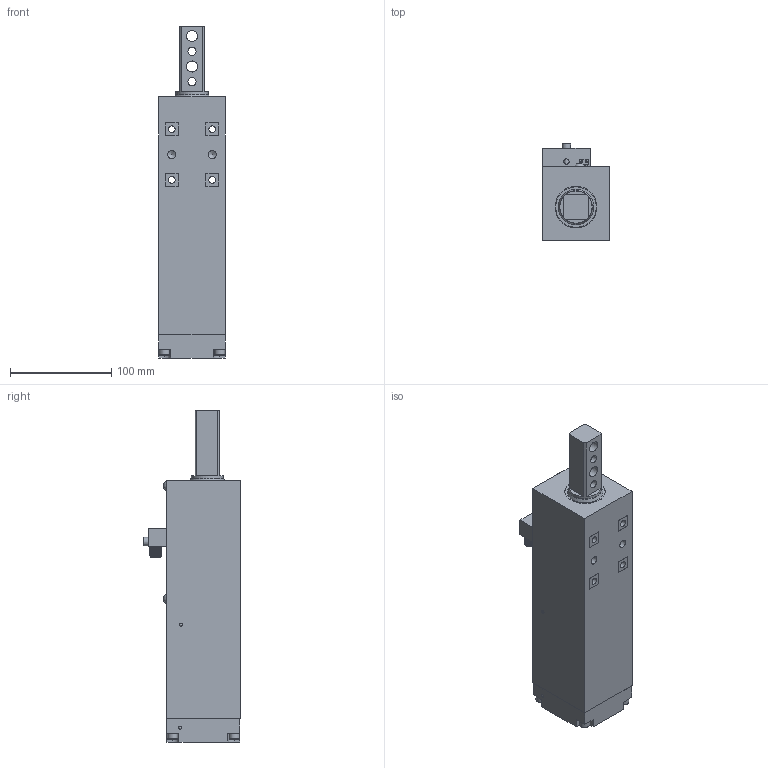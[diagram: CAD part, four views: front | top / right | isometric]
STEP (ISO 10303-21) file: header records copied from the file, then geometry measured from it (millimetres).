
FILE_DESCRIPTION(/* description */ (''),/* implementation_level */ '2;1');
FILE_NAME(/* name */ 'Z:\CAD-Zaytran\Product\LSA\LSA - 72\STEP Files\LSA-72 75mm\LSA-72 75mm Retract Hoels Verticle.stp',/* time_stamp */ '2020-12-30T09:13:38-05:00',/* author */ ('ZaytranCAD2'),/* organization */ (''),/* preprocessor_version */ 'ST-DEVELOPER v17',/* originating_system */ 'Autodesk Inventor 2019',/* authorisation */ '');
FILE_SCHEMA (('AUTOMOTIVE_DESIGN { 1 0 10303 214 3 1 1 }'));
Length unit declared in the file: inch
Products named in the file (22): LSA-72 75mm Assembly; LSA-72 Long Body; LSA-72 Long Shaft; LSA-72 Anti Rotation Block; LSA-72 End Cap; LSA-72 Piston; M10 Hex Nut; .375 Black Oxide 18-8 Stainless Steel Washer; M10 Washer; Turck Sensor; Chicklet - New; AS 1420 - 1973 - M6 x 25; Long Sensor Cover; 5.0x8mm Button Head Screw; 1.25 Dia Oring; Press Seal Ring; .3125 O Ring; .125 Ball Bearing; M8x30mm SHCS; AS 1420 - 1973 - M3 x 6; AS 1420 - 1973 - M5 x 25; Rod Wiper
Assembly tree (27 placements, depth 2):
  LSA-72 75mm Assembly
    LSA-72 Long Body
    LSA-72 Long Shaft
    LSA-72 Anti Rotation Block
    LSA-72 End Cap
    LSA-72 Piston
    M10 Hex Nut
    .375 Black Oxide 18-8 Stainless Steel Washer
    M10 Washer
    Turck Sensor
    Chicklet - New  x2
    AS 1420 - 1973 - M6 x 25  x4
    Long Sensor Cover
    5.0x8mm Button Head Screw  x2
    1.25 Dia Oring
    Press Seal Ring
    .3125 O Ring
    .125 Ball Bearing  x2
    M8x30mm SHCS
    AS 1420 - 1973 - M3 x 6
    AS 1420 - 1973 - M5 x 25
    Rod Wiper
Bounding box: 66 x 96 x 328 mm (x, y, z)
Volume: 1023947.4 mm3; surface area: 220472 mm2
Topology: 27 solids, 27 shells, 1035 faces, 2849 edges, 1912 vertices
Faces by surface type: plane 373, cylinder 294, cone 218, bspline 121, torus 25, sphere 4
Full cylindrical faces by diameter (mm): 1 x8, 1.587 x2, 2 x2, 2.2 x4, 2.464 x4, 3 x1, 3.048 x2, 3.099 x2, 3.175 x2, 3.961 x20, 4.14 x2, 4.47 x1, 4.762 x1, 4.928 x4, 5 x19, 5.3 x4, 5.5 x1, 6 x4, 6.248 x4, 6.655 x5, 6.701 x28, 6.756 x4, 7.938 x1, 8 x33, 8.3 x1, 8.331 x1, 8.5 x1, 8.56 x2, 9.5 x2, 9.652 x1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
Entity records: 41570 total; most frequent: CARTESIAN_POINT 17777, ORIENTED_EDGE 5106, DIRECTION 4383, EDGE_CURVE 2553, AXIS2_PLACEMENT_3D 1736, VERTEX_POINT 1719, EDGE_LOOP 1056, FACE_OUTER_BOUND 930
